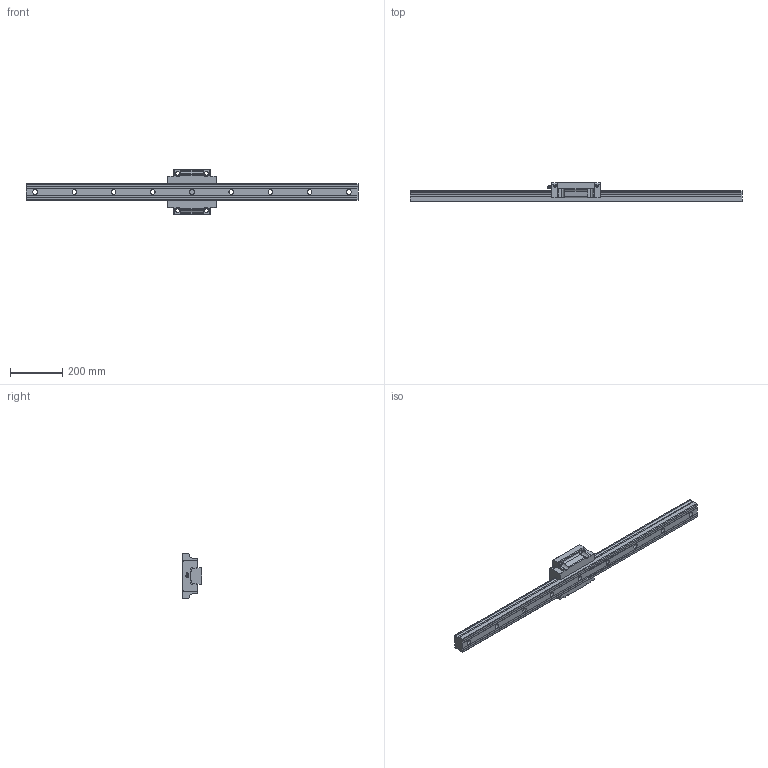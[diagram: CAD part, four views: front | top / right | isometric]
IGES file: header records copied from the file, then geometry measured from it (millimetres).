
Start section: Data from Parasolid IGES Translator 26.0.171, Copyright(c) 2006 Siemens PLM Software. All Rights Reserved.
Global section: file name: SVR65C1SS-1270L_G35_0_B-PT18_542_0_0_0_1.igs; native system: By Siemens PLM Incorporated; preprocessor: XPlus GENERIC/IGES 26.0.171; author: Noname; organization: Noname; date: 20240517.072305; units: millimetre
Bounding box: 1270 x 75 x 170 mm (x, y, z)
Surface area: 419918.3 mm2 (no closed solid volume)
Topology: 0 solids, 0 shells, 235 faces, 1263 edges, 1209 vertices
Faces by surface type: extrusion 130, revolution 105
